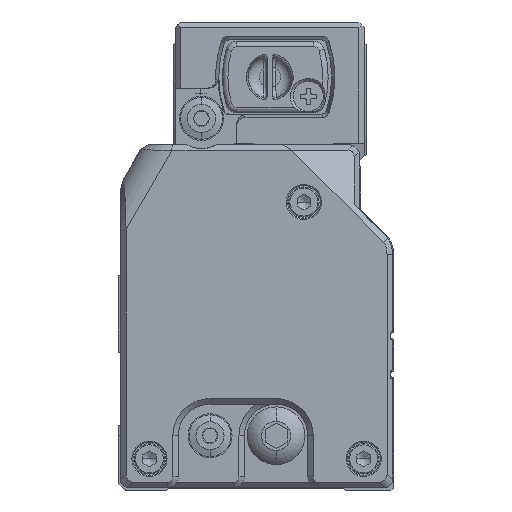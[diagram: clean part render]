
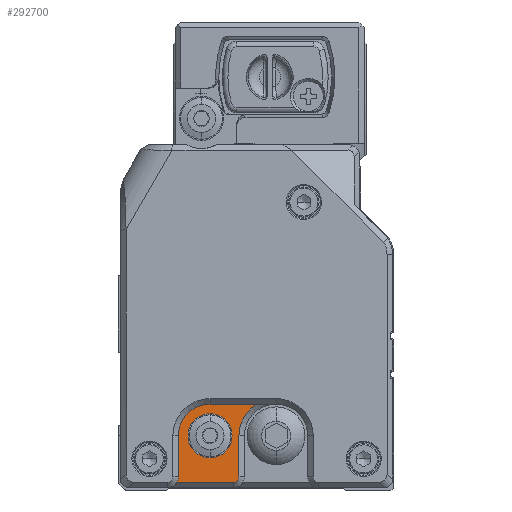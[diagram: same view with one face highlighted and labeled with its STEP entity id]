
A CAD part, left-side view. The second image highlights one B-rep face of the part: STEP entity #292700.
In plain terms, the highlighted planar face has unit normal (-1, 0, 0) as drawn and (1, 0, 0) by its records, which use the part's own axes.
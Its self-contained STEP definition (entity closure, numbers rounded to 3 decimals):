
#291150=CARTESIAN_POINT('',(664.177,2.462,
3.148));
#291160=DIRECTION('',(-1.,0.,0.));
#291170=DIRECTION('',(0.,1.,0.));
#291180=AXIS2_PLACEMENT_3D('',#291150,#291160,#291170);
#291190=CIRCLE('',#291180,5.75);
#291200=CARTESIAN_POINT('',(664.177,8.212,
3.148));
#291210=VERTEX_POINT('',#291200);
#291220=CARTESIAN_POINT('',(664.177,2.462,
-2.602));
#291230=VERTEX_POINT('',#291220);
#291240=EDGE_CURVE('',#291210,#291230,#291190,.T.);
#291650=CARTESIAN_POINT('',(664.177,8.212,
3.148));
#291660=DIRECTION('',(0.,0.,1.));
#291670=VECTOR('',#291660,1.);
#291680=LINE('',#291650,#291670);
#291690=CARTESIAN_POINT('',(664.177,8.212,
10.598));
#291700=VERTEX_POINT('',#291690);
#291710=EDGE_CURVE('',#291210,#291700,#291680,.T.);
#291970=CARTESIAN_POINT('',(664.177,-5.938,
-12.8));
#291980=DIRECTION('',(-1.,0.,0.));
#291990=DIRECTION('',(0.,0.,-1.));
#292000=AXIS2_PLACEMENT_3D('',#291970,#291980,#291990);
#292010=PLANE('',#292000);
#292020=CARTESIAN_POINT('',(664.177,4.212,
11.598));
#292030=DIRECTION('',(0.,-1.,0.));
#292040=VECTOR('',#292030,1.);
#292050=LINE('',#292020,#292040);
#292060=CARTESIAN_POINT('',(664.177,8.48,
11.598));
#292070=VERTEX_POINT('',#292060);
#292080=CARTESIAN_POINT('',(664.177,-1.788,
11.598));
#292090=VERTEX_POINT('',#292080);
#292100=EDGE_CURVE('',#292070,#292090,#292050,.T.);
#292110=ORIENTED_EDGE('',*,*,#292100,.T.);
#292120=CARTESIAN_POINT('',(664.177,10.212,
10.598));
#292130=DIRECTION('',(-1.,0.,0.));
#292140=DIRECTION('',(0.,1.,0.));
#292150=AXIS2_PLACEMENT_3D('',#292120,#292130,#292140);
#292160=CIRCLE('',#292150,2.);
#292170=EDGE_CURVE('',#291700,#292070,#292160,.T.);
#292180=ORIENTED_EDGE('',*,*,#292170,.T.);
#292190=ORIENTED_EDGE('',*,*,#291710,.T.);
#292200=ORIENTED_EDGE('',*,*,#291240,.F.);
#292210=CARTESIAN_POINT('',(664.177,-5.888,
-2.602));
#292220=DIRECTION('',(0.,1.,0.));
#292230=VECTOR('',#292220,1.);
#292240=LINE('',#292210,#292230);
#292250=CARTESIAN_POINT('',(664.177,-6.002,
-2.602));
#292260=VERTEX_POINT('',#292250);
#292270=EDGE_CURVE('',#292260,#291230,#292240,.T.);
#292280=ORIENTED_EDGE('',*,*,#292270,.T.);
#292290=CARTESIAN_POINT('',(664.177,-9.538,
3.148));
#292300=DIRECTION('',(-1.,0.,0.));
#292310=DIRECTION('',(0.,1.,0.));
#292320=AXIS2_PLACEMENT_3D('',#292290,#292300,#292310);
#292330=CIRCLE('',#292320,6.75);
#292340=CARTESIAN_POINT('',(664.177,-2.788,
3.148));
#292350=VERTEX_POINT('',#292340);
#292360=EDGE_CURVE('',#292350,#292260,#292330,.T.);
#292370=ORIENTED_EDGE('',*,*,#292360,.T.);
#292380=CARTESIAN_POINT('',(664.177,-2.788,
6.873));
#292390=DIRECTION('',(0.,0.,-1.));
#292400=VECTOR('',#292390,1.);
#292410=LINE('',#292380,#292400);
#292420=CARTESIAN_POINT('',(664.177,-2.788,
10.598));
#292430=VERTEX_POINT('',#292420);
#292440=EDGE_CURVE('',#292430,#292350,#292410,.T.);
#292450=ORIENTED_EDGE('',*,*,#292440,.T.);
#292460=CARTESIAN_POINT('',(664.177,-1.788,
10.598));
#292470=DIRECTION('',(-1.,0.,0.));
#292480=DIRECTION('',(0.,1.,0.));
#292490=AXIS2_PLACEMENT_3D('',#292460,#292470,#292480);
#292500=CIRCLE('',#292490,1.);
#292510=EDGE_CURVE('',#292430,#292090,#292500,.T.);
#292520=ORIENTED_EDGE('',*,*,#292510,.F.);
#292530=EDGE_LOOP('',(#292520,#292450,#292370,#292280,#292200,#292190,
#292180,#292110));
#292540=FACE_OUTER_BOUND('',#292530,.T.);
#292550=CARTESIAN_POINT('',(664.177,2.462,
3.148));
#292560=DIRECTION('',(-1.,0.,0.));
#292570=DIRECTION('',(0.,0.,-1.));
#292580=AXIS2_PLACEMENT_3D('',#292550,#292560,#292570);
#292590=CIRCLE('',#292580,4.);
#292600=CARTESIAN_POINT('',(664.177,2.462,
-0.852));
#292610=VERTEX_POINT('',#292600);
#292620=CARTESIAN_POINT('',(664.177,2.462,
7.148));
#292630=VERTEX_POINT('',#292620);
#292640=EDGE_CURVE('',#292610,#292630,#292590,.T.);
#292650=ORIENTED_EDGE('',*,*,#292640,.T.);
#292660=EDGE_CURVE('',#292630,#292610,#292590,.T.);
#292670=ORIENTED_EDGE('',*,*,#292660,.T.);
#292680=EDGE_LOOP('',(#292670,#292650));
#292690=FACE_BOUND('',#292680,.T.);
#292700=ADVANCED_FACE('',(#292540,#292690),#292010,.F.);
